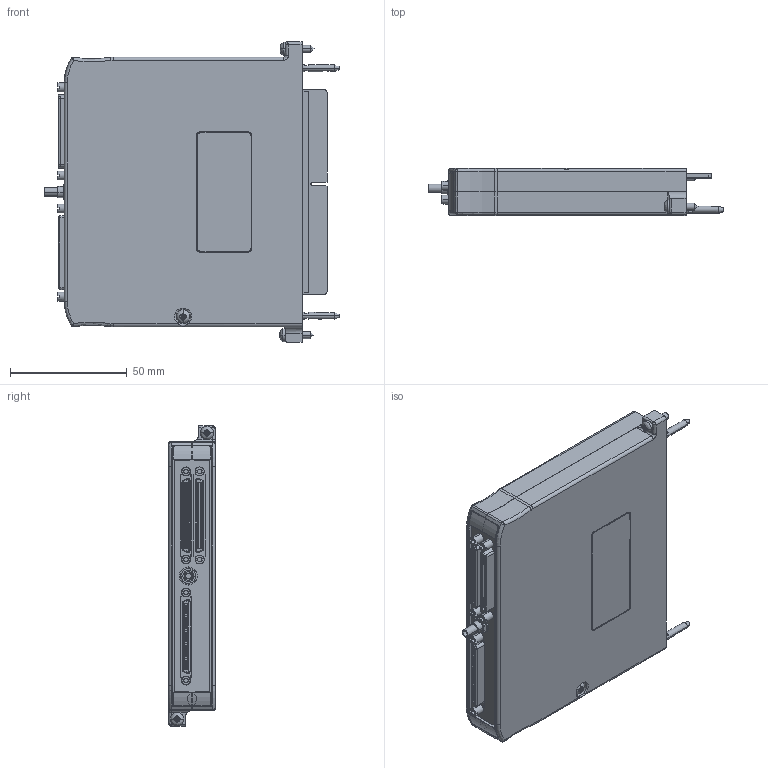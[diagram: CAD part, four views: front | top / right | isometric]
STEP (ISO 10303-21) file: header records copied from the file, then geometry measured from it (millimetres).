
FILE_DESCRIPTION((''),'2;1');
FILE_NAME('CD_NI-5752','2010-01-19T',('jjorden'),(''),'PRO/ENGINEER BY PARAMETRIC TECHNOLOGY CORPORATION, 2006080','PRO/ENGINEER BY PARAMETRIC TECHNOLOGY CORPORATION, 2006080','');
FILE_SCHEMA(('CONFIG_CONTROL_DESIGN'));
Products named in the file (1): CD_NI-5752
Bounding box: 126.24 x 20.02 x 128.65 mm (x, y, z)
Volume: 57400 mm3; surface area: 100121.9 mm2
Topology: 3 solids, 6 shells, 6828 faces, 18737 edges, 12137 vertices
Faces by surface type: plane 5458, cylinder 1030, cone 148, bspline 106, sphere 48, torus 38
Entity records: 222093 total; most frequent: CARTESIAN_POINT 46439, ORIENTED_EDGE 37402, DIRECTION 34337, EDGE_CURVE 18701, VECTOR 15679, LINE 15679, VERTEX_POINT 12289, AXIS2_PLACEMENT_3D 9329
